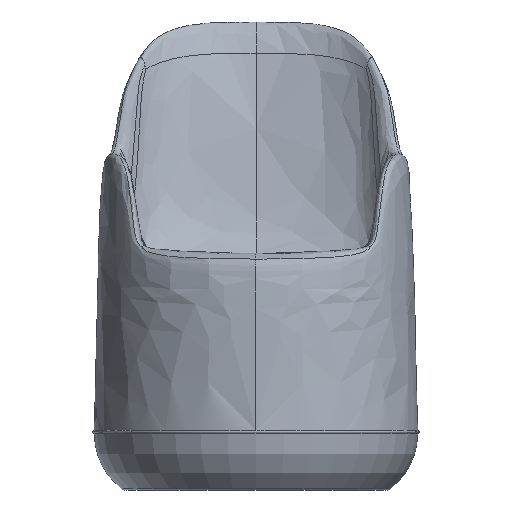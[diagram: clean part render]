
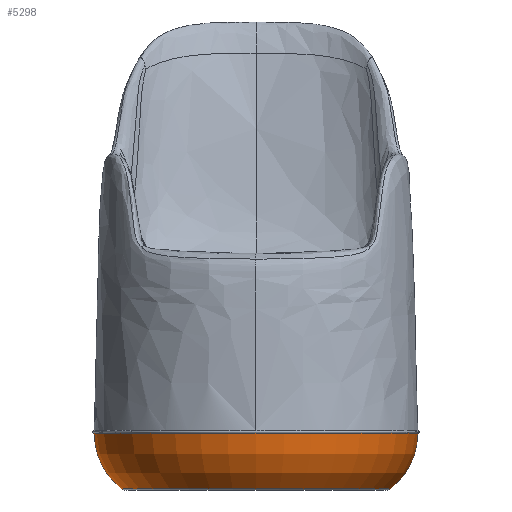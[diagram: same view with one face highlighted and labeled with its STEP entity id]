
A CAD part, front view. The second image highlights one B-rep face of the part: STEP entity #5298.
In plain terms, the highlighted toroidal (fillet/blend) face has major radius 170 mm and minor radius 130 mm.
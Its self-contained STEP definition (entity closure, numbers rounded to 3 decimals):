
#55 = EDGE_CURVE ( 'NONE', #3703, #2301, #6247, .T. ) ;
#215 = FACE_OUTER_BOUND ( 'NONE', #4562, .T. ) ;
#224 = DIRECTION ( 'NONE',  ( -1., 0., 0. ) ) ;
#391 = ORIENTED_EDGE ( 'NONE', *, *, #3671, .F. ) ;
#559 = DIRECTION ( 'NONE',  ( 0., 0., -1. ) ) ;
#595 = CARTESIAN_POINT ( 'NONE',  ( 0., 0., 130. ) ) ;
#1089 = DIRECTION ( 'NONE',  ( 0., 0., -1. ) ) ;
#1263 = VERTEX_POINT ( 'NONE', #5594 ) ;
#1479 = ORIENTED_EDGE ( 'NONE', *, *, #4513, .T. ) ;
#1991 = CIRCLE ( 'NONE', #5658, 130. ) ;
#2169 = DIRECTION ( 'NONE',  ( 1., 0., 0. ) ) ;
#2301 = VERTEX_POINT ( 'NONE', #2347 ) ;
#2347 = CARTESIAN_POINT ( 'NONE',  ( -300., 0., 130. ) ) ;
#2481 = CIRCLE ( 'NONE', #3656, 249.424 ) ;
#2555 = DIRECTION ( 'NONE',  ( 0., 0., -1. ) ) ;
#2697 = CARTESIAN_POINT ( 'NONE',  ( -249.424, 0., 27.083 ) ) ;
#2860 = CARTESIAN_POINT ( 'NONE',  ( 0., 0., 27.083 ) ) ;
#3190 = CIRCLE ( 'NONE', #6589, 130. ) ;
#3451 = ORIENTED_EDGE ( 'NONE', *, *, #6553, .F. ) ;
#3656 = AXIS2_PLACEMENT_3D ( 'NONE', #2860, #1089, #6643 ) ;
#3671 = EDGE_CURVE ( 'NONE', #1263, #5073, #2481, .T. ) ;
#3703 = VERTEX_POINT ( 'NONE', #6123 ) ;
#4230 = DIRECTION ( 'NONE',  ( 0., 1., 0. ) ) ;
#4253 = CARTESIAN_POINT ( 'NONE',  ( 170., 0., 130. ) ) ;
#4513 = EDGE_CURVE ( 'NONE', #1263, #3703, #3190, .T. ) ;
#4562 = EDGE_LOOP ( 'NONE', ( #3451, #391, #1479, #6208 ) ) ;
#4706 = CARTESIAN_POINT ( 'NONE',  ( 0., 0., 130. ) ) ;
#4757 = CARTESIAN_POINT ( 'NONE',  ( -170., 0., 130. ) ) ;
#5073 = VERTEX_POINT ( 'NONE', #2697 ) ;
#5168 = DIRECTION ( 'NONE',  ( 1., 0., 0. ) ) ;
#5184 = TOROIDAL_SURFACE ( 'NONE', #7305, 170., 130. ) ;
#5298 = ADVANCED_FACE ( 'NONE', ( #215 ), #5184, .T. ) ;
#5321 = DIRECTION ( 'NONE',  ( 0., 0., 1. ) ) ;
#5594 = CARTESIAN_POINT ( 'NONE',  ( 249.424, 0., 27.083 ) ) ;
#5658 = AXIS2_PLACEMENT_3D ( 'NONE', #4757, #4230, #224 ) ;
#6123 = CARTESIAN_POINT ( 'NONE',  ( 300., 0., 130. ) ) ;
#6208 = ORIENTED_EDGE ( 'NONE', *, *, #55, .T. ) ;
#6247 = CIRCLE ( 'NONE', #6826, 300. ) ;
#6523 = DIRECTION ( 'NONE',  ( 0., -1., 0. ) ) ;
#6553 = EDGE_CURVE ( 'NONE', #5073, #2301, #1991, .T. ) ;
#6589 = AXIS2_PLACEMENT_3D ( 'NONE', #4253, #6523, #2555 ) ;
#6643 = DIRECTION ( 'NONE',  ( 1., 0., 0. ) ) ;
#6826 = AXIS2_PLACEMENT_3D ( 'NONE', #595, #559, #2169 ) ;
#7305 = AXIS2_PLACEMENT_3D ( 'NONE', #4706, #5321, #5168 ) ;
